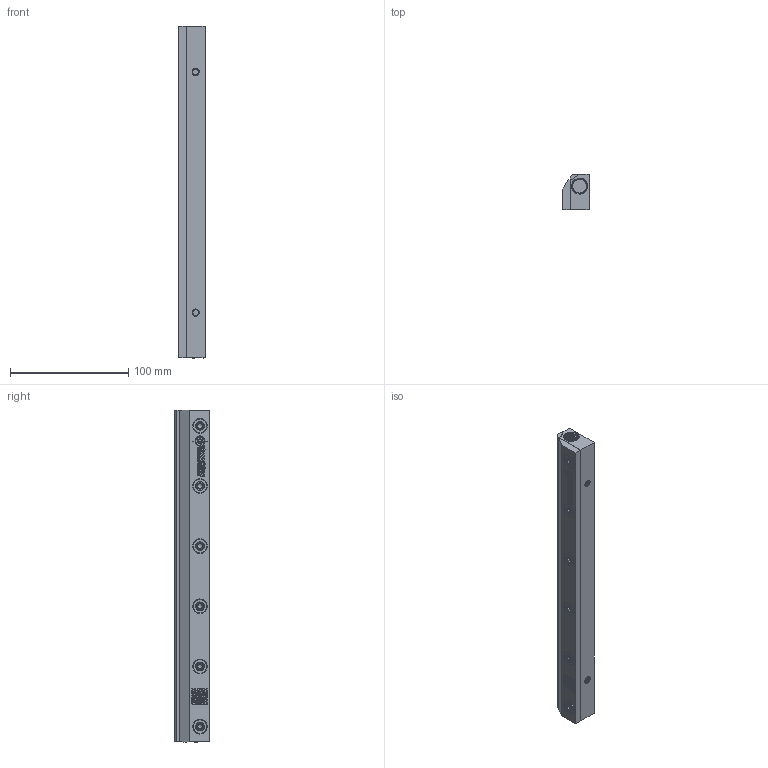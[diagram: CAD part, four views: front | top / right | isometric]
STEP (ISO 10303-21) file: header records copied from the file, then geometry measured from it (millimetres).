
FILE_DESCRIPTION (( 'STEP AP214' ), '1' );
FILE_NAME ('STEP - RA-3 250.STEP', '2023-07-12T09:11:06', ( '' ), ( '' ), 'SwSTEP 2.0', 'SolidWorks 2021', '' );
FILE_SCHEMA (( 'AUTOMOTIVE_DESIGN' ));
Length unit declared in the file: millimetre
Products named in the file (1): STEP - RA-3 250
Bounding box: 22.15 x 29.5 x 280.36 mm (x, y, z)
Volume: 165689.6 mm3; surface area: 33587.8 mm2
Topology: 1 solids, 13 shells, 1633 faces, 4465 edges, 2970 vertices
Faces by surface type: plane 1205, cylinder 196, bspline 186, cone 34, torus 12
Full cylindrical faces by diameter (mm): 5.297 x6, 6 x6, 6.5 x6, 11.3 x6
Entity records: 86967 total; most frequent: CARTESIAN_POINT 29486, ORIENTED_EDGE 8702, DIRECTION 7115, EDGE_CURVE 4351, VECTOR 3455, LINE 3455, VERTEX_POINT 2922, AXIS2_PLACEMENT_3D 1830
